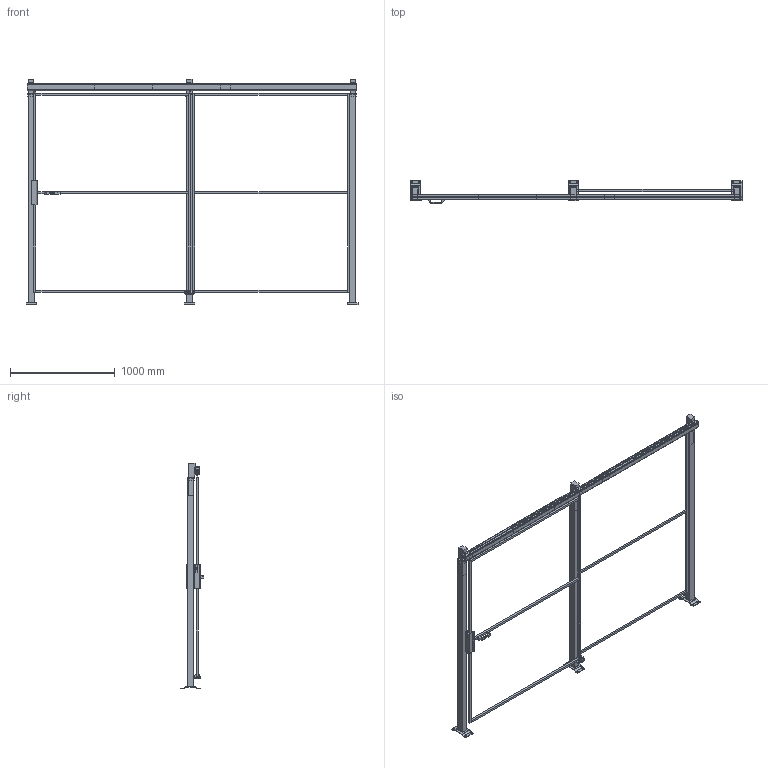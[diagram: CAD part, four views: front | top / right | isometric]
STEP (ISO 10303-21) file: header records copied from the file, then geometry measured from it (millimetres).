
FILE_DESCRIPTION(/* description */ (''),/* implementation_level */ '2;1');
FILE_NAME(/* name */ 'C:\SafeGuarding\ELABORATI\VZOR§POSUVNE_1950x2320_2025-02-13-13-14-48.stp',/* time_stamp */ '2025-02-13T13:14:51+01:00',/* author */ ('admin'),/* organization */ (''),/* preprocessor_version */ 'ST-DEVELOPER v18.1',/* originating_system */ 'AutoCAD Mechanical',/* authorisation */ '');
FILE_SCHEMA (('AUTOMOTIVE_DESIGN { 1 0 10303 214 3 1 1 }'));
Length unit declared in the file: millimetre
Products named in the file (4): Product; R_VFPA.REPE20.15001900; DATI_PORTA; P_VFMA.ME60SDU.2020
Assembly tree (6 placements, depth 2):
  Product
    P_VFMA.ME60SDU.2020  x3
    R_VFPA.REPE20.15001900  x2
    DATI_PORTA
Bounding box: 3170 x 219.95 x 2154 mm (x, y, z)
Volume: 36407469.2 mm3; surface area: 5008178.4 mm2
Topology: 36 solids, 47 shells, 516 faces, 1700 edges, 1656 vertices
Faces by surface type: plane 474, cylinder 40, sphere 2
Full cylindrical faces by diameter (mm): 11 x12, 12 x2, 15 x4, 40 x4
Entity records: 13323 total; most frequent: CARTESIAN_POINT 2822, DIRECTION 2012, ORIENTED_EDGE 1950, EDGE_CURVE 1024, LINE 988, VECTOR 988, VERTEX_POINT 724, AXIS2_PLACEMENT_3D 512
